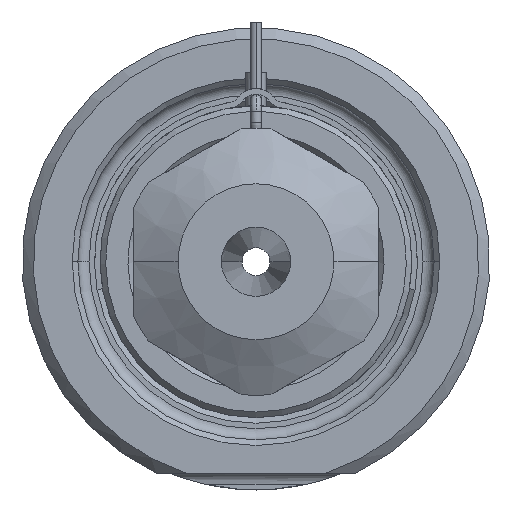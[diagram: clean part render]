
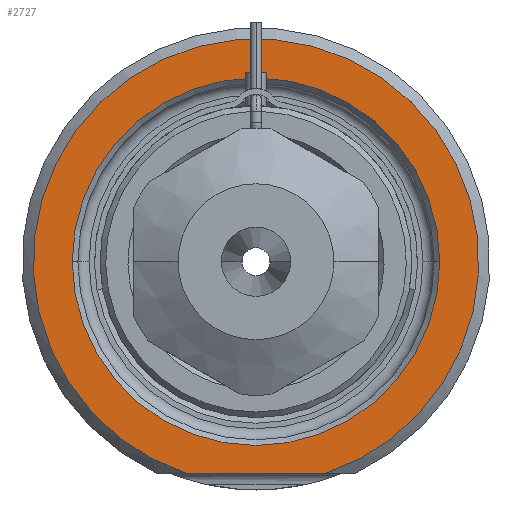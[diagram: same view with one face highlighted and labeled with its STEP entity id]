
A CAD part, front view. The second image highlights one B-rep face of the part: STEP entity #2727.
In plain terms, the highlighted planar face has unit normal (0, -1, 0).
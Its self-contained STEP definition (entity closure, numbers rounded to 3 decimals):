
#1=DIRECTION('',(1.,0.,0.));
#2=VECTOR('',#1,12.49);
#3=CARTESIAN_POINT('',(-6.245,0.,-19.));
#4=LINE('',#3,#2);
#5=CARTESIAN_POINT('',(0.,0.,0.));
#6=DIRECTION('',(0.,1.,0.));
#7=DIRECTION('',(-1.,0.,0.));
#8=AXIS2_PLACEMENT_3D('',#5,#6,#7);
#10=CARTESIAN_POINT('',(0.,0.,0.));
#11=DIRECTION('',(0.,1.,0.));
#12=DIRECTION('',(1.,0.,0.));
#13=AXIS2_PLACEMENT_3D('',#10,#11,#12);
#119=CARTESIAN_POINT('',(0.,0.,0.));
#120=DIRECTION('',(0.,-1.,0.));
#121=DIRECTION('',(0.312,0.,-0.95));
#122=AXIS2_PLACEMENT_3D('',#119,#120,#121);
#2274=CARTESIAN_POINT('',(-16.5,0.,0.));
#2275=CARTESIAN_POINT('',(16.5,0.,0.));
#2276=VERTEX_POINT('',#2274);
#2277=VERTEX_POINT('',#2275);
#2328=CARTESIAN_POINT('',(-6.245,0.,-19.));
#2329=CARTESIAN_POINT('',(6.245,0.,-19.));
#2330=VERTEX_POINT('',#2328);
#2331=VERTEX_POINT('',#2329);
#2710=CARTESIAN_POINT('',(0.,0.,0.));
#2711=DIRECTION('',(0.,-1.,0.));
#2712=DIRECTION('',(1.,0.,0.));
#2713=AXIS2_PLACEMENT_3D('',#2710,#2711,#2712);
#2714=PLANE('',#2713);
#2716=ORIENTED_EDGE('',*,*,#2715,.F.);
#2718=ORIENTED_EDGE('',*,*,#2717,.F.);
#2719=EDGE_LOOP('',(#2716,#2718));
#2720=FACE_OUTER_BOUND('',#2719,.F.);
#2722=ORIENTED_EDGE('',*,*,#2721,.F.);
#2724=ORIENTED_EDGE('',*,*,#2723,.F.);
#2725=EDGE_LOOP('',(#2722,#2724));
#2726=FACE_BOUND('',#2725,.F.);
#2727=ADVANCED_FACE('',(#2720,#2726),#2714,.T.);
#9=CIRCLE('',#8,16.5);
#14=CIRCLE('',#13,16.5);
#123=CIRCLE('',#122,20.);
#2715=EDGE_CURVE('',#2330,#2331,#4,.T.);
#2717=EDGE_CURVE('',#2331,#2330,#123,.T.);
#2721=EDGE_CURVE('',#2276,#2277,#9,.T.);
#2723=EDGE_CURVE('',#2277,#2276,#14,.T.);
